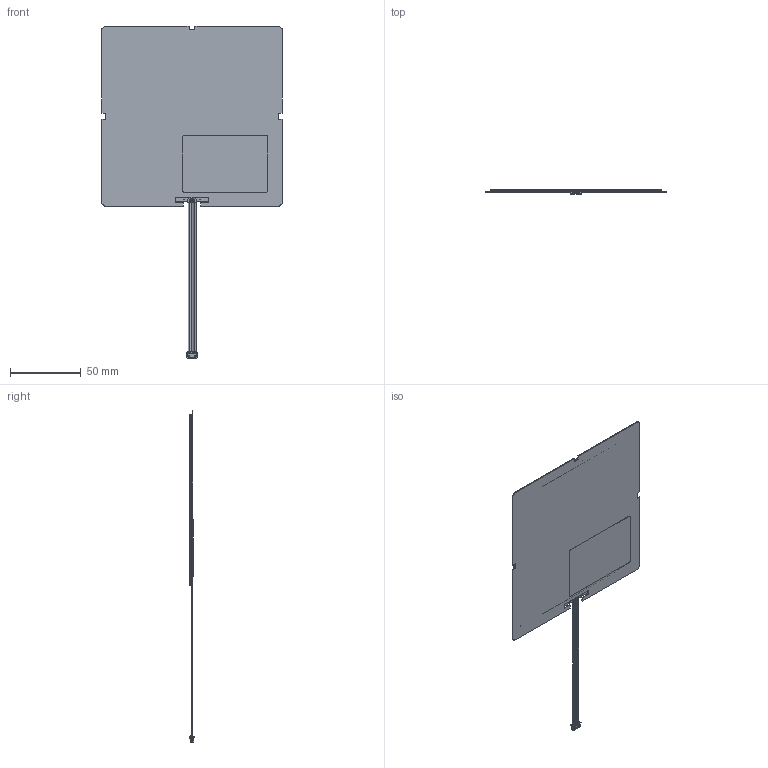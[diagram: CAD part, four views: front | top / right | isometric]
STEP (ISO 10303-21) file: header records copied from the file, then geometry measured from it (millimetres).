
FILE_DESCRIPTION (( 'STEP AP203' ), '1' );
FILE_NAME ('Brite-FL300-ww-A0.STEP', '2014-08-26T01:52:17', ( 'Philips' ), ( 'Philips' ), 'SwSTEP 2.0', 'SolidWorks 2013', '' );
FILE_SCHEMA (( 'CONFIG_CONTROL_DESIGN' ));
Length unit declared in the file: millimetre
Products named in the file (17): Back-Cover-20131213_0731; Resistor-0402; FL300-Product-Label-Level-2-ww_FL300-Product-Label-Level-2-ww; Ligaro; Brite-FL300-ww-A0; Eagle-OLED; Cable; Substrate; 510210500; TFE; 500798000; Metal-Sheet-Adhesive; Metal-Sheet; Outcoupling-Foil; Heat-pad
Assembly tree (21 placements, depth 4):
  Brite-FL300-ww-A0
    Eagle-OLED
      Outcoupling-Foil
      Substrate
      TFE
      Metal-Sheet-Adhesive
      Metal-Sheet
      Ligaro
        Ligaro
        Resistor-0402  x2
    Cable
      Cable
      510210500
      500798000  x5
    Heat-pad
    Back-Cover-20131213_0731
    FL300-Product-Label-Level-2-ww_FL300-Product-Label-Level-2-ww
Bounding box: 127 x 3.2 x 233.9 mm (x, y, z)
Volume: 30570.4 mm3; surface area: 201329.2 mm2
Topology: 18 solids, 18 shells, 1152 faces, 3234 edges, 2098 vertices
Faces by surface type: plane 773, bspline 199, cylinder 180
Entity records: 23271 total; most frequent: CARTESIAN_POINT 6125, ORIENTED_EDGE 3340, DIRECTION 2863, EDGE_CURVE 1670, LINE 1395, VECTOR 1395, VERTEX_POINT 1082, AXIS2_PLACEMENT_3D 734
